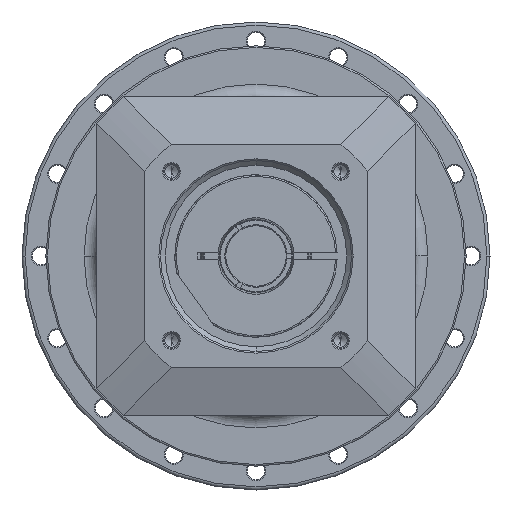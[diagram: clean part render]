
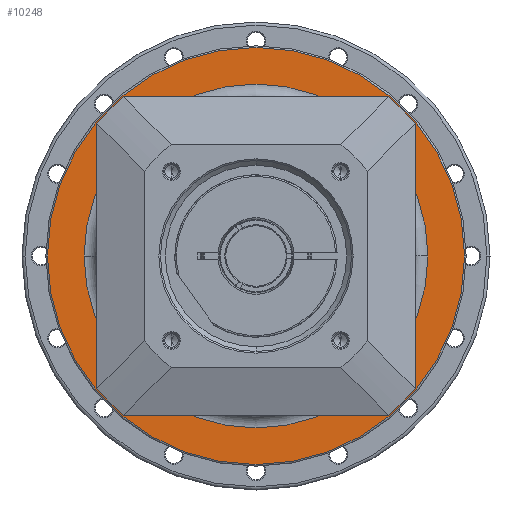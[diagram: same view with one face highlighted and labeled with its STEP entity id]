
A CAD part, left-side view. The second image highlights one B-rep face of the part: STEP entity #10248.
In plain terms, the highlighted planar face has unit normal (-1, 0, 0) as drawn and (1, 0, 0) by its records, which use the part's own axes.
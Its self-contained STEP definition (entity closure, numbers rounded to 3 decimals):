
#9905=CARTESIAN_POINT('',(-11.5,0.,0.));
#9906=DIRECTION('',(-1.,0.,0.));
#9907=DIRECTION('',(0.,-1.,0.));
#9908=AXIS2_PLACEMENT_3D('',#9905,#9906,#9907);
#9910=CARTESIAN_POINT('',(-11.5,0.,0.));
#9911=DIRECTION('',(-1.,0.,0.));
#9912=DIRECTION('',(0.,1.,0.));
#9913=AXIS2_PLACEMENT_3D('',#9910,#9911,#9912);
#9915=CARTESIAN_POINT('',(-11.5,0.,0.));
#9916=DIRECTION('',(-1.,0.,0.));
#9917=DIRECTION('',(0.,-1.,0.));
#9918=AXIS2_PLACEMENT_3D('',#9915,#9916,#9917);
#9920=CARTESIAN_POINT('',(-11.5,0.,0.));
#9921=DIRECTION('',(-1.,0.,0.));
#9922=DIRECTION('',(0.,1.,0.));
#9923=AXIS2_PLACEMENT_3D('',#9920,#9921,#9922);
#10045=CARTESIAN_POINT('',(-11.5,-65.5,0.));
#10046=CARTESIAN_POINT('',(-11.5,65.5,0.));
#10047=VERTEX_POINT('',#10045);
#10048=VERTEX_POINT('',#10046);
#10069=CARTESIAN_POINT('',(-11.5,-54.,0.));
#10070=CARTESIAN_POINT('',(-11.5,54.,0.));
#10071=VERTEX_POINT('',#10069);
#10072=VERTEX_POINT('',#10070);
#10233=CARTESIAN_POINT('',(-11.5,0.,0.));
#10234=DIRECTION('',(1.,0.,0.));
#10235=DIRECTION('',(0.,-1.,0.));
#10236=AXIS2_PLACEMENT_3D('',#10233,#10234,#10235);
#10237=PLANE('',#10236);
#10239=ORIENTED_EDGE('',*,*,#10238,.T.);
#10241=ORIENTED_EDGE('',*,*,#10240,.T.);
#10242=EDGE_LOOP('',(#10239,#10241));
#10243=FACE_OUTER_BOUND('',#10242,.F.);
#10244=ORIENTED_EDGE('',*,*,#10227,.F.);
#10245=ORIENTED_EDGE('',*,*,#10213,.F.);
#10246=EDGE_LOOP('',(#10244,#10245));
#10247=FACE_BOUND('',#10246,.F.);
#10248=ADVANCED_FACE('',(#10243,#10247),#10237,.T.);
#9909=CIRCLE('',#9908,54.);
#9914=CIRCLE('',#9913,54.);
#9919=CIRCLE('',#9918,65.5);
#9924=CIRCLE('',#9923,65.5);
#10213=EDGE_CURVE('',#10072,#10071,#9914,.T.);
#10227=EDGE_CURVE('',#10071,#10072,#9909,.T.);
#10238=EDGE_CURVE('',#10047,#10048,#9919,.T.);
#10240=EDGE_CURVE('',#10048,#10047,#9924,.T.);
